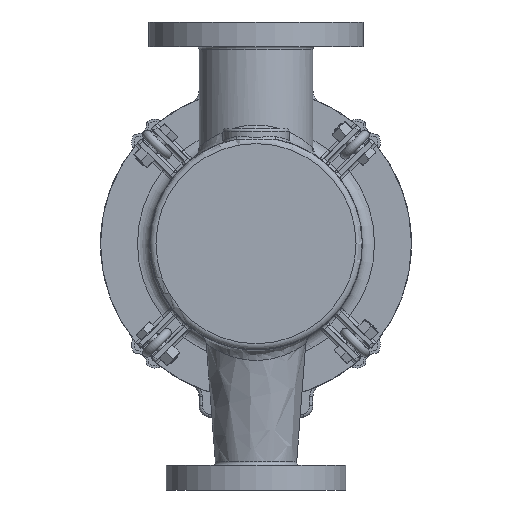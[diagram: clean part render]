
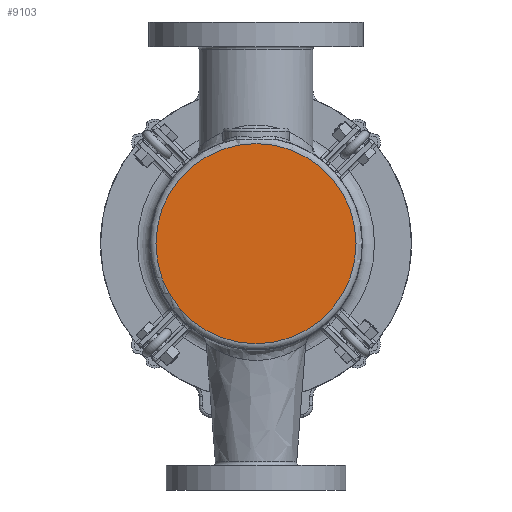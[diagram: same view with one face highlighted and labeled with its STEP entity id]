
A CAD part, front view. The second image highlights one B-rep face of the part: STEP entity #9103.
In plain terms, the highlighted planar face has unit normal (0, -1, 0).
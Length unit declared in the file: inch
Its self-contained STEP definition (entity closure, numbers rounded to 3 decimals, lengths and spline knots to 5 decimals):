
#1261=PLANE('',#9723);
#2037=FACE_OUTER_BOUND('',#2632,.T.);
#2632=EDGE_LOOP('',(#6161));
#3382=CIRCLE('',#9715,4.0625);
#3992=VERTEX_POINT('',#14150);
#4835=EDGE_CURVE('',#3992,#3992,#3382,.T.);
#6161=ORIENTED_EDGE('',*,*,#4835,.F.);
#9103=ADVANCED_FACE('',(#2037),#1261,.F.);
#9715=AXIS2_PLACEMENT_3D('',#14151,#10960,#10961);
#9723=AXIS2_PLACEMENT_3D('',#14162,#10976,#10977);
#10960=DIRECTION('center_axis',(0.,1.,0.));
#10961=DIRECTION('ref_axis',(1.,0.,0.));
#10976=DIRECTION('center_axis',(0.,1.,0.));
#10977=DIRECTION('ref_axis',(0.,0.,1.));
#14150=CARTESIAN_POINT('',(-4.0625,0.,0.));
#14151=CARTESIAN_POINT('Origin',(0.,0.,0.));
#14162=CARTESIAN_POINT('Origin',(0.,0.,0.));
